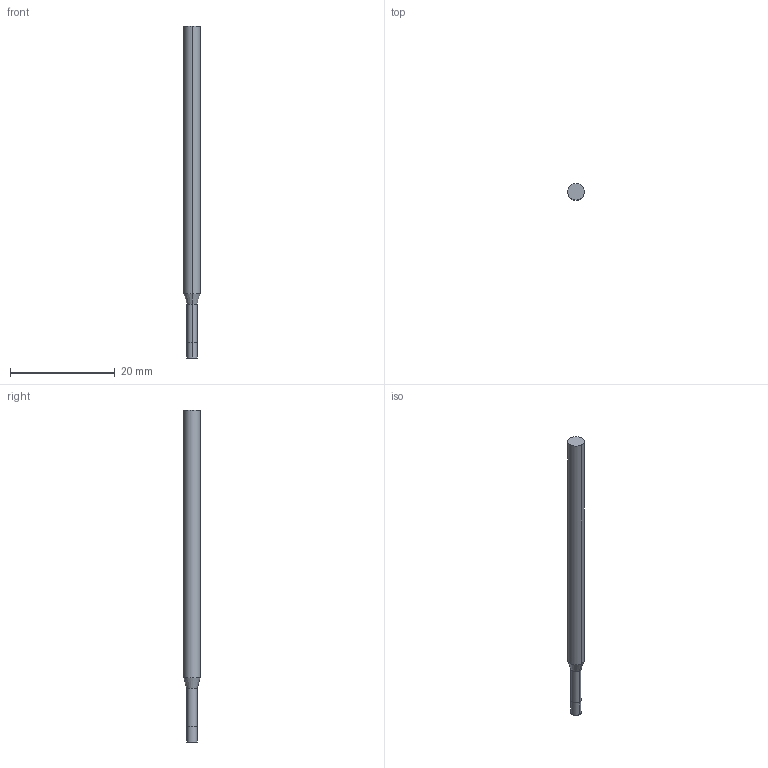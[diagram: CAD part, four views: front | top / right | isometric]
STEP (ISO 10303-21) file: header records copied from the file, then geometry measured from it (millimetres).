
FILE_DESCRIPTION((' '),'2;1');
FILE_NAME( '3MVS0781N5AH.stp', '2026-01-21T19:08:36', (' '), ('--- Datakit www.datakit.com---'), ' Datakit CrossCadWare V2025.4 Sep 19 2025', 'Mastercam 2027', ' ');
FILE_SCHEMA(('AUTOMOTIVE_DESIGN { 1 0 10303 214 1 1 1 1 }'));
Length unit declared in the file: inch
Products named in the file (1): 3MVS0781N5AH
Bounding box: 3.17 x 3.17 x 63.5 mm (x, y, z)
Volume: 447.9 mm3; surface area: 602.9 mm2
Topology: 1 solids, 1 shells, 10 faces, 18 edges, 10 vertices
Faces by surface type: cylinder 6, plane 2, cone 2
Entity records: 323 total; most frequent: DIRECTION 58, CARTESIAN_POINT 43, ORIENTED_EDGE 36, AXIS2_PLACEMENT_3D 25, EDGE_CURVE 18, VERTEX_POINT 10, CIRCLE 10, EDGE_LOOP 10
